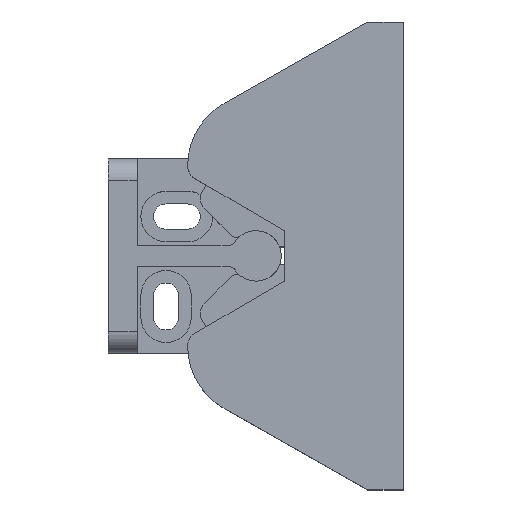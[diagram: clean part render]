
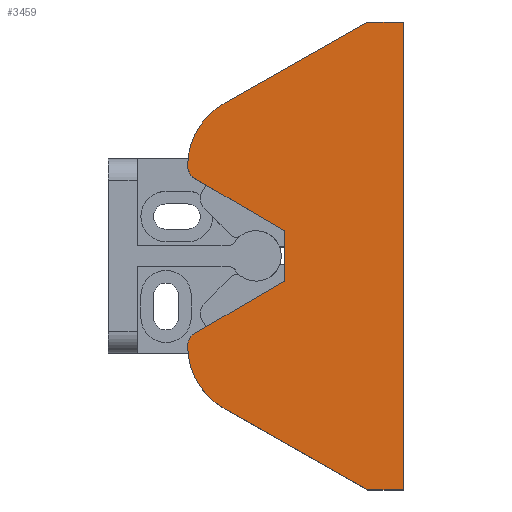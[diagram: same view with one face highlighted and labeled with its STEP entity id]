
A CAD part, top view. The second image highlights one B-rep face of the part: STEP entity #3459.
In plain terms, the highlighted planar face has unit normal (0, 0, 1).
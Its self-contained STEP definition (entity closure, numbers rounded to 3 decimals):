
#4 = CARTESIAN_POINT ( 'NONE',  ( -20.5, -12.5, 15. ) ) ;
#35 = CARTESIAN_POINT ( 'NONE',  ( -21.509, 10.773, 15. ) ) ;
#110 = ORIENTED_EDGE ( 'NONE', *, *, #1532, .T. ) ;
#149 = CARTESIAN_POINT ( 'NONE',  ( 2.5, 32.5, 15. ) ) ;
#159 = AXIS2_PLACEMENT_3D ( 'NONE', #2672, #1650, #4022 ) ;
#169 = VERTEX_POINT ( 'NONE', #1872 ) ;
#177 = LINE ( 'NONE', #1475, #3637 ) ;
#278 = VERTEX_POINT ( 'NONE', #1897 ) ;
#295 = CARTESIAN_POINT ( 'NONE',  ( -17.432, -21.199, 15. ) ) ;
#300 = DIRECTION ( 'NONE',  ( -1., 0., 0. ) ) ;
#341 = CARTESIAN_POINT ( 'NONE',  ( 7.5, 32.5, 15. ) ) ;
#347 = LINE ( 'NONE', #1649, #1274 ) ;
#363 = VECTOR ( 'NONE', #3057, 1000. ) ;
#401 = DIRECTION ( 'NONE',  ( -1., 0., 0. ) ) ;
#437 = ORIENTED_EDGE ( 'NONE', *, *, #1299, .T. ) ;
#473 = VERTEX_POINT ( 'NONE', #2101 ) ;
#493 = EDGE_CURVE ( 'NONE', #3019, #473, #177, .T. ) ;
#522 = CIRCLE ( 'NONE', #2920, 10. ) ;
#540 = DIRECTION ( 'NONE',  ( 0., 1., 0. ) ) ;
#574 = CIRCLE ( 'NONE', #159, 0.1 ) ;
#578 = CARTESIAN_POINT ( 'NONE',  ( -22.5, -12.5, 15. ) ) ;
#600 = VERTEX_POINT ( 'NONE', #341 ) ;
#613 = DIRECTION ( 'NONE',  ( -0.87, -0.493, 0. ) ) ;
#626 = FACE_OUTER_BOUND ( 'NONE', #3134, .T. ) ;
#654 = DIRECTION ( 'NONE',  ( -1., 0., 0. ) ) ;
#674 = DIRECTION ( 'NONE',  ( 0., 0., -1. ) ) ;
#821 = LINE ( 'NONE', #149, #3866 ) ;
#835 = DIRECTION ( 'NONE',  ( 1., 0., 0. ) ) ;
#864 = EDGE_CURVE ( 'NONE', #2289, #3019, #978, .T. ) ;
#866 = EDGE_CURVE ( 'NONE', #278, #600, #4183, .T. ) ;
#932 = CARTESIAN_POINT ( 'NONE',  ( -9., 3.405, 15. ) ) ;
#964 = DIRECTION ( 'NONE',  ( 0., 0., -1. ) ) ;
#978 = CIRCLE ( 'NONE', #1382, 10. ) ;
#1004 = ORIENTED_EDGE ( 'NONE', *, *, #866, .T. ) ;
#1033 = CARTESIAN_POINT ( 'NONE',  ( -9., -3.405, 15. ) ) ;
#1040 = CIRCLE ( 'NONE', #3446, 2. ) ;
#1050 = CARTESIAN_POINT ( 'NONE',  ( -9., -3.405, 15. ) ) ;
#1085 = ORIENTED_EDGE ( 'NONE', *, *, #1342, .T. ) ;
#1124 = ORIENTED_EDGE ( 'NONE', *, *, #1923, .T. ) ;
#1208 = CIRCLE ( 'NONE', #4018, 2. ) ;
#1227 = EDGE_CURVE ( 'NONE', #3379, #2289, #1040, .T. ) ;
#1274 = VECTOR ( 'NONE', #613, 1000. ) ;
#1281 = DIRECTION ( 'NONE',  ( -1., 0., 0. ) ) ;
#1299 = EDGE_CURVE ( 'NONE', #3438, #3553, #2337, .T. ) ;
#1342 = EDGE_CURVE ( 'NONE', #2319, #3438, #574, .T. ) ;
#1382 = AXIS2_PLACEMENT_3D ( 'NONE', #3901, #2582, #1281 ) ;
#1475 = CARTESIAN_POINT ( 'NONE',  ( 2.5, -32.5, 15. ) ) ;
#1509 = ORIENTED_EDGE ( 'NONE', *, *, #3977, .T. ) ;
#1515 = CARTESIAN_POINT ( 'NONE',  ( -21.509, -10.773, 15. ) ) ;
#1532 = EDGE_CURVE ( 'NONE', #3616, #3379, #2432, .T. ) ;
#1629 = DIRECTION ( 'NONE',  ( -1., 0., 0. ) ) ;
#1649 = CARTESIAN_POINT ( 'NONE',  ( 2.5, 32.5, 15. ) ) ;
#1650 = DIRECTION ( 'NONE',  ( 0., 0., -1. ) ) ;
#1736 = CARTESIAN_POINT ( 'NONE',  ( 2.5, 32.5, 15. ) ) ;
#1872 = CARTESIAN_POINT ( 'NONE',  ( -17.432, 21.199, 15. ) ) ;
#1897 = CARTESIAN_POINT ( 'NONE',  ( 7.5, -32.5, 15. ) ) ;
#1923 = EDGE_CURVE ( 'NONE', #600, #2936, #821, .T. ) ;
#1943 = VECTOR ( 'NONE', #835, 1000. ) ;
#1964 = ORIENTED_EDGE ( 'NONE', *, *, #4059, .T. ) ;
#1995 = CARTESIAN_POINT ( 'NONE',  ( -9.05, 3.491, 15. ) ) ;
#2041 = ORIENTED_EDGE ( 'NONE', *, *, #1227, .T. ) ;
#2048 = CARTESIAN_POINT ( 'NONE',  ( -12.5, 12.5, 15. ) ) ;
#2101 = CARTESIAN_POINT ( 'NONE',  ( 2.5, -32.5, 15. ) ) ;
#2139 = DIRECTION ( 'NONE',  ( -1., 0., 0. ) ) ;
#2160 = CIRCLE ( 'NONE', #2367, 0.1 ) ;
#2289 = VERTEX_POINT ( 'NONE', #578 ) ;
#2319 = VERTEX_POINT ( 'NONE', #1995 ) ;
#2337 = LINE ( 'NONE', #1033, #363 ) ;
#2367 = AXIS2_PLACEMENT_3D ( 'NONE', #2671, #674, #3909 ) ;
#2420 = VECTOR ( 'NONE', #540, 1000. ) ;
#2432 = LINE ( 'NONE', #3141, #3720 ) ;
#2485 = LINE ( 'NONE', #3769, #1943 ) ;
#2517 = CARTESIAN_POINT ( 'NONE',  ( 7.5, 32.5, 15. ) ) ;
#2582 = DIRECTION ( 'NONE',  ( 0., 0., 1. ) ) ;
#2671 = CARTESIAN_POINT ( 'NONE',  ( -9.1, -3.405, 15. ) ) ;
#2672 = CARTESIAN_POINT ( 'NONE',  ( -9.1, 3.405, 15. ) ) ;
#2734 = CARTESIAN_POINT ( 'NONE',  ( -9.05, -3.491, 15. ) ) ;
#2785 = ORIENTED_EDGE ( 'NONE', *, *, #4215, .T. ) ;
#2802 = DIRECTION ( 'NONE',  ( 0.87, -0.493, 0. ) ) ;
#2803 = DIRECTION ( 'NONE',  ( 0.863, -0.505, 0. ) ) ;
#2837 = ORIENTED_EDGE ( 'NONE', *, *, #3823, .T. ) ;
#2920 = AXIS2_PLACEMENT_3D ( 'NONE', #2048, #3346, #401 ) ;
#2936 = VERTEX_POINT ( 'NONE', #1736 ) ;
#3019 = VERTEX_POINT ( 'NONE', #295 ) ;
#3057 = DIRECTION ( 'NONE',  ( 0., -1., 0. ) ) ;
#3123 = AXIS2_PLACEMENT_3D ( 'NONE', #3241, #964, #300 ) ;
#3134 = EDGE_LOOP ( 'NONE', ( #3882, #4246, #1004, #1124, #1509, #2837, #1964, #2785, #1085, #437, #3807, #110, #2041, #3519 ) ) ;
#3141 = CARTESIAN_POINT ( 'NONE',  ( -21.509, -10.773, 15. ) ) ;
#3195 = EDGE_CURVE ( 'NONE', #473, #278, #2485, .T. ) ;
#3241 = CARTESIAN_POINT ( 'NONE',  ( -12.5, -12.5, 15. ) ) ;
#3270 = CARTESIAN_POINT ( 'NONE',  ( -20.5, 12.5, 15. ) ) ;
#3346 = DIRECTION ( 'NONE',  ( 0., 0., 1. ) ) ;
#3364 = VERTEX_POINT ( 'NONE', #3755 ) ;
#3379 = VERTEX_POINT ( 'NONE', #1515 ) ;
#3438 = VERTEX_POINT ( 'NONE', #932 ) ;
#3446 = AXIS2_PLACEMENT_3D ( 'NONE', #4, #3538, #1629 ) ;
#3459 = ADVANCED_FACE ( 'NONE', ( #626 ), #4186, .F. ) ;
#3489 = DIRECTION ( 'NONE',  ( -0.863, -0.505, 0. ) ) ;
#3519 = ORIENTED_EDGE ( 'NONE', *, *, #864, .T. ) ;
#3538 = DIRECTION ( 'NONE',  ( 0., 0., 1. ) ) ;
#3553 = VERTEX_POINT ( 'NONE', #1050 ) ;
#3594 = DIRECTION ( 'NONE',  ( 0., 0., 1. ) ) ;
#3616 = VERTEX_POINT ( 'NONE', #2734 ) ;
#3637 = VECTOR ( 'NONE', #2802, 1000. ) ;
#3720 = VECTOR ( 'NONE', #3489, 1000. ) ;
#3755 = CARTESIAN_POINT ( 'NONE',  ( -22.5, 12.5, 15. ) ) ;
#3767 = VERTEX_POINT ( 'NONE', #35 ) ;
#3769 = CARTESIAN_POINT ( 'NONE',  ( 7.5, -32.5, 15. ) ) ;
#3807 = ORIENTED_EDGE ( 'NONE', *, *, #4037, .T. ) ;
#3823 = EDGE_CURVE ( 'NONE', #169, #3364, #522, .T. ) ;
#3866 = VECTOR ( 'NONE', #2139, 1000. ) ;
#3882 = ORIENTED_EDGE ( 'NONE', *, *, #493, .T. ) ;
#3901 = CARTESIAN_POINT ( 'NONE',  ( -12.5, -12.5, 15. ) ) ;
#3909 = DIRECTION ( 'NONE',  ( -1., 0., 0. ) ) ;
#3944 = VECTOR ( 'NONE', #2803, 1000. ) ;
#3977 = EDGE_CURVE ( 'NONE', #2936, #169, #347, .T. ) ;
#4018 = AXIS2_PLACEMENT_3D ( 'NONE', #3270, #3594, #654 ) ;
#4022 = DIRECTION ( 'NONE',  ( -1., 0., 0. ) ) ;
#4037 = EDGE_CURVE ( 'NONE', #3553, #3616, #2160, .T. ) ;
#4059 = EDGE_CURVE ( 'NONE', #3364, #3767, #1208, .T. ) ;
#4149 = LINE ( 'NONE', #4171, #3944 ) ;
#4171 = CARTESIAN_POINT ( 'NONE',  ( -9.05, 3.491, 15. ) ) ;
#4183 = LINE ( 'NONE', #2517, #2420 ) ;
#4186 = PLANE ( 'NONE',  #3123 ) ;
#4215 = EDGE_CURVE ( 'NONE', #3767, #2319, #4149, .T. ) ;
#4246 = ORIENTED_EDGE ( 'NONE', *, *, #3195, .T. ) ;
